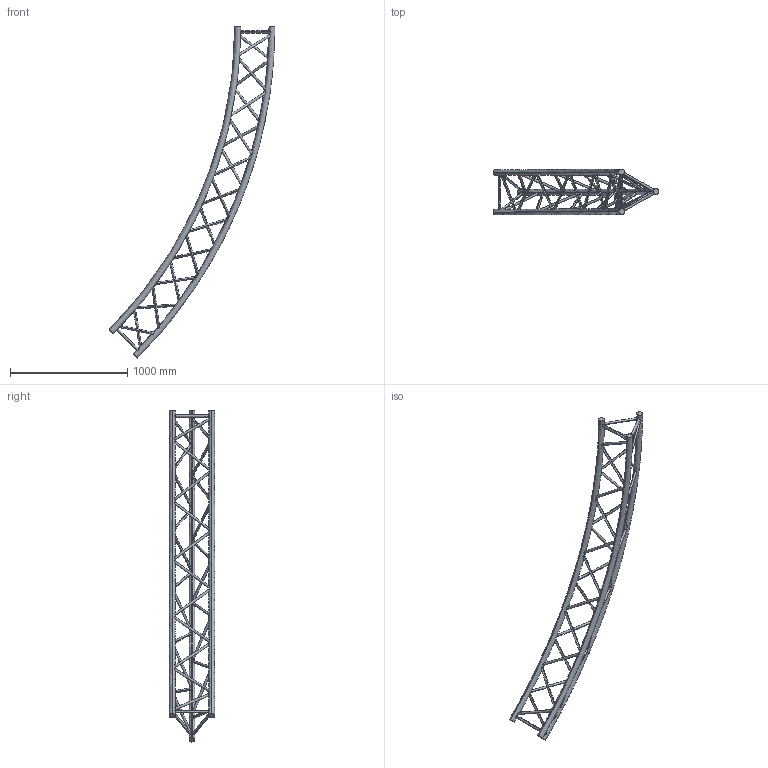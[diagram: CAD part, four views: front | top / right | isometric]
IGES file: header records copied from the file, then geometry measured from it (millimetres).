
Start section: SolidWorks IGES file using analytic representation for surfaces
Global section: file name: K:\BIBLIO\asd_biblio\SX390\Cercles\SXC39PE\SXC39800PE\SXC39800PE.IGS; native system: SolidWorks 2009; preprocessor: SolidWorks 2009; author: des3; date: 091021.141930; units: millimetre
Bounding box: 1413.3 x 387 x 2828.43 mm (x, y, z)
Surface area: 2242849.2 mm2 (no closed solid volume)
Topology: 0 solids, 0 shells, 90 faces, 6410 edges, 6410 vertices
Faces by surface type: revolution 78, bspline 12
